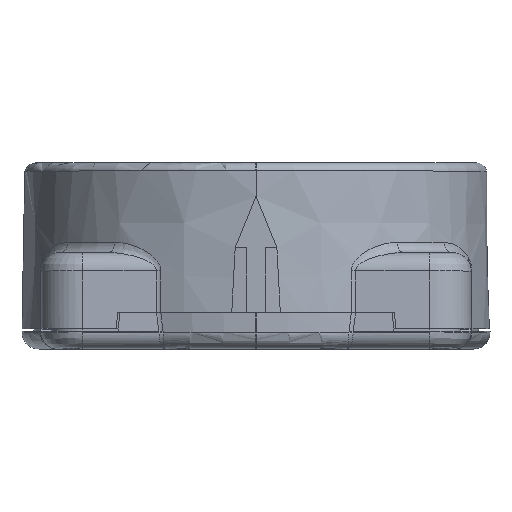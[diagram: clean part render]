
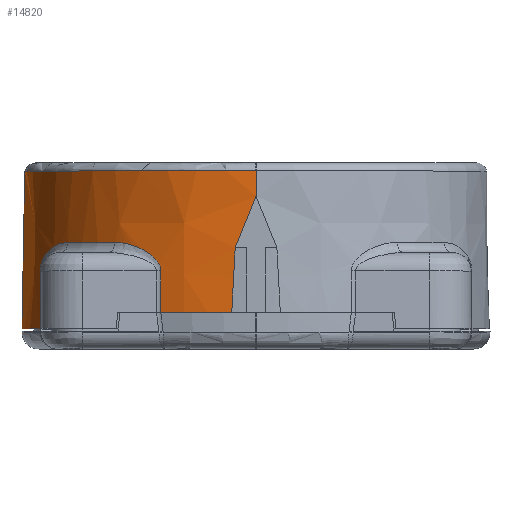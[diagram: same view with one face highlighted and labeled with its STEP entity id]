
A CAD part, top view. The second image highlights one B-rep face of the part: STEP entity #14820.
In plain terms, the highlighted conical face has half-angle 1 degrees and reference radius 22.509 mm.
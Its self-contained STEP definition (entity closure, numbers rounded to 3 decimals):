
#7040=CARTESIAN_POINT('',(1.649,-7.92,
0.876));
#7050=DIRECTION('',(0.,1.,0.));
#7060=DIRECTION('',(0.,0.,1.));
#7070=AXIS2_PLACEMENT_3D('',#7040,#7050,#7060);
#7080=CIRCLE('',#7070,22.5);
#7090=CARTESIAN_POINT('',(1.649,-7.92,
23.376));
#7100=VERTEX_POINT('',#7090);
#7130=CARTESIAN_POINT('',(10.325,-7.92,
21.635));
#7140=VERTEX_POINT('',#7130);
#7150=EDGE_CURVE('',#7100,#7140,#7080,.T.);
#10830=CARTESIAN_POINT('',(22.16,-6.37,
10.058));
#10840=VERTEX_POINT('',#10830);
#10870=CARTESIAN_POINT('',(1.649,-6.37,
0.876));
#10880=DIRECTION('',(0.,-1.,0.));
#10890=DIRECTION('',(0.,0.,1.));
#10900=AXIS2_PLACEMENT_3D('',#10870,#10880,#10890);
#10910=CIRCLE('',#10900,22.473);
#10920=CARTESIAN_POINT('',(24.001,-6.37,
3.205));
#10930=VERTEX_POINT('',#10920);
#10940=EDGE_CURVE('',#10930,#10840,#10910,.T.);
#12670=CARTESIAN_POINT('',(23.96,-3.048,
3.031));
#12680=VERTEX_POINT('',#12670);
#12710=CARTESIAN_POINT('',(23.96,-3.048,
3.031));
#12720=DIRECTION('',(0.096,0.006,
-0.995));
#12730=VECTOR('',#12720,1.);
#12740=LINE('',#12710,#12730);
#12750=CARTESIAN_POINT('',(23.96,-3.048,
3.026));
#12760=VERTEX_POINT('',#12750);
#12770=EDGE_CURVE('',#12680,#12760,#12740,.T.);
#13240=CARTESIAN_POINT('',(23.924,-0.17,
2.875));
#13250=CARTESIAN_POINT('',(23.955,1.479,
2.209));
#13260=CARTESIAN_POINT('',(23.956,3.129,
1.542));
#13270=CARTESIAN_POINT('',(23.927,4.779,
0.876));
#13280=B_SPLINE_CURVE_WITH_KNOTS('',3,(#13240,#13250,#13260,#13270),
.UNSPECIFIED.,.F.,.F.,(4,4),(0.,5.338),.UNSPECIFIED.);
#13290=CARTESIAN_POINT('',(23.924,-0.17,
2.875));
#13300=VERTEX_POINT('',#13290);
#13310=CARTESIAN_POINT('',(23.927,4.779,
0.876));
#13320=VERTEX_POINT('',#13310);
#13330=EDGE_CURVE('',#13300,#13320,#13280,.T.);
#13640=CARTESIAN_POINT('',(23.96,-3.048,
3.026));
#13650=DIRECTION('',(-0.013,0.999,
-0.052));
#13660=VECTOR('',#13650,1.);
#13670=LINE('',#13640,#13660);
#13680=EDGE_CURVE('',#12760,#13300,#13670,.T.);
#13750=CARTESIAN_POINT('',(1.649,-8.42,
0.876));
#13760=DIRECTION('',(0.,-1.,0.));
#13770=DIRECTION('',(0.,0.,1.));
#13780=AXIS2_PLACEMENT_3D('',#13750,#13760,#13770);
#13790=CONICAL_SURFACE('',#13780,22.509,0.017);
#13800=CARTESIAN_POINT('',(22.091,-2.389,
10.042));
#13810=DIRECTION('',(0.017,-1.,
0.004));
#13820=VECTOR('',#13810,1.);
#13830=LINE('',#13800,#13820);
#13840=CARTESIAN_POINT('',(22.091,-2.389,
10.042));
#13850=VERTEX_POINT('',#13840);
#13860=EDGE_CURVE('',#13850,#10840,#13830,.T.);
#13870=ORIENTED_EDGE('',*,*,#13860,.T.);
#13880=CARTESIAN_POINT('',(22.091,-2.389,
10.042));
#13890=CARTESIAN_POINT('',(22.087,-2.176,
10.041));
#13900=CARTESIAN_POINT('',(22.029,-1.751,
10.153));
#13910=CARTESIAN_POINT('',(21.806,-1.117,
10.609));
#13920=CARTESIAN_POINT('',(21.337,-0.403,
11.523));
#13930=CARTESIAN_POINT('',(20.54,0.184,
12.885));
#13940=CARTESIAN_POINT('',(19.803,0.363,
13.937));
#13950=CARTESIAN_POINT('',(19.409,0.363,
14.452));
#13960=B_SPLINE_CURVE_WITH_KNOTS('',3,(#13880,#13890,#13900,#13910,
#13920,#13930,#13940,#13950),.UNSPECIFIED.,.F.,.F.,(4,1,1,1,1,4),(0.,
0.087,0.179,0.366,0.682,
1.),.UNSPECIFIED.);
#13970=CARTESIAN_POINT('',(19.409,0.363,
14.452));
#13980=VERTEX_POINT('',#13970);
#13990=EDGE_CURVE('',#13850,#13980,#13960,.T.);
#14000=ORIENTED_EDGE('',*,*,#13990,.F.);
#14010=CARTESIAN_POINT('',(1.649,0.363,
0.876));
#14020=DIRECTION('',(0.,1.,0.));
#14030=DIRECTION('',(1.,-0.,0.));
#14040=AXIS2_PLACEMENT_3D('',#14010,#14020,#14030);
#14050=CIRCLE('',#14040,22.355);
#14060=CARTESIAN_POINT('',(14.806,0.363,
18.95));
#14070=VERTEX_POINT('',#14060);
#14080=EDGE_CURVE('',#14070,#13980,#14050,.T.);
#14090=ORIENTED_EDGE('',*,*,#14080,.T.);
#14100=CARTESIAN_POINT('',(14.806,0.363,
18.95));
#14110=CARTESIAN_POINT('',(14.13,0.363,
19.441));
#14120=CARTESIAN_POINT('',(13.065,0.157,
20.13));
#14130=CARTESIAN_POINT('',(11.679,-0.446,
20.881));
#14140=CARTESIAN_POINT('',(11.011,-0.888,
21.203));
#14150=CARTESIAN_POINT('',(10.715,-1.168,
21.339));
#14160=B_SPLINE_CURVE_WITH_KNOTS('',3,(#14100,#14110,#14120,#14130,
#14140,#14150),.UNSPECIFIED.,.F.,.F.,(4,1,1,4),(0.,0.496,
0.745,1.),.UNSPECIFIED.);
#14170=CARTESIAN_POINT('',(10.715,-1.168,
21.339));
#14180=VERTEX_POINT('',#14170);
#14190=EDGE_CURVE('',#14070,#14180,#14160,.T.);
#14200=ORIENTED_EDGE('',*,*,#14190,.F.);
#14210=CARTESIAN_POINT('',(10.715,-1.168,
21.339));
#14220=CARTESIAN_POINT('',(10.551,-1.323,
21.415));
#14230=CARTESIAN_POINT('',(10.317,-1.591,
21.52));
#14240=CARTESIAN_POINT('',(10.112,-2.041,
21.613));
#14250=CARTESIAN_POINT('',(10.078,-2.305,
21.631));
#14260=CARTESIAN_POINT('',(10.084,-2.437,
21.632));
#14270=B_SPLINE_CURVE_WITH_KNOTS('',3,(#14210,#14220,#14230,#14240,
#14250,#14260),.UNSPECIFIED.,.F.,.F.,(4,1,1,4),(0.,0.478,
0.733,1.),.UNSPECIFIED.);
#14280=CARTESIAN_POINT('',(10.084,-2.437,
21.632));
#14290=VERTEX_POINT('',#14280);
#14300=EDGE_CURVE('',#14180,#14290,#14270,.T.);
#14310=ORIENTED_EDGE('',*,*,#14300,.F.);
#14320=CARTESIAN_POINT('',(10.084,-2.437,
21.632));
#14330=DIRECTION('',(0.044,-0.999,
0.001));
#14340=VECTOR('',#14330,1.);
#14350=LINE('',#14320,#14340);
#14360=EDGE_CURVE('',#14290,#7140,#14350,.T.);
#14370=ORIENTED_EDGE('',*,*,#14360,.F.);
#14380=ORIENTED_EDGE('',*,*,#7150,.T.);
#14390=CARTESIAN_POINT('',(1.649,-8.42,
23.384));
#14400=DIRECTION('',(0.,-1.,
0.017));
#14410=VECTOR('',#14400,1289.72);
#14420=LINE('',#14390,#14410);
#14430=CARTESIAN_POINT('',(1.649,7.23,
23.111));
#14440=VERTEX_POINT('',#14430);
#14450=EDGE_CURVE('',#14440,#7100,#14420,.T.);
#14460=ORIENTED_EDGE('',*,*,#14450,.T.);
#14470=CARTESIAN_POINT('',(1.649,7.23,
0.876));
#14480=DIRECTION('',(0.,-1.,0.));
#14490=DIRECTION('',(0.,0.,1.));
#14500=AXIS2_PLACEMENT_3D('',#14470,#14480,#14490);
#14510=CIRCLE('',#14500,22.236);
#14520=CARTESIAN_POINT('',(23.884,7.23,
0.871));
#14530=VERTEX_POINT('',#14520);
#14540=EDGE_CURVE('',#14530,#14440,#14510,.T.);
#14550=ORIENTED_EDGE('',*,*,#14540,.T.);
#14560=CARTESIAN_POINT('',(23.927,4.767,
0.871));
#14570=DIRECTION('',(-0.017,1.,0.));
#14580=VECTOR('',#14570,1.);
#14590=LINE('',#14560,#14580);
#14600=CARTESIAN_POINT('',(23.927,4.767,
0.871));
#14610=VERTEX_POINT('',#14600);
#14620=EDGE_CURVE('',#14610,#14530,#14590,.T.);
#14630=ORIENTED_EDGE('',*,*,#14620,.T.);
#14640=CARTESIAN_POINT('',(23.927,4.767,
0.871));
#14650=DIRECTION('',(-0.016,0.927,
0.375));
#14660=VECTOR('',#14650,1.);
#14670=LINE('',#14640,#14660);
#14680=EDGE_CURVE('',#14610,#13320,#14670,.T.);
#14690=ORIENTED_EDGE('',*,*,#14680,.F.);
#14700=ORIENTED_EDGE('',*,*,#13330,.T.);
#14710=ORIENTED_EDGE('',*,*,#13680,.T.);
#14720=ORIENTED_EDGE('',*,*,#12770,.T.);
#14730=CARTESIAN_POINT('',(24.001,-6.37,
3.205));
#14740=DIRECTION('',(-0.012,0.999,
-0.052));
#14750=VECTOR('',#14740,1.);
#14760=LINE('',#14730,#14750);
#14770=EDGE_CURVE('',#10930,#12680,#14760,.T.);
#14780=ORIENTED_EDGE('',*,*,#14770,.T.);
#14790=ORIENTED_EDGE('',*,*,#10940,.F.);
#14800=EDGE_LOOP('',(#14790,#14780,#14720,#14710,#14700,#14690,#14630,
#14550,#14460,#14380,#14370,#14310,#14200,#14090,#14000,#13870));
#14810=FACE_OUTER_BOUND('',#14800,.T.);
#14820=ADVANCED_FACE('',(#14810),#13790,.T.);
